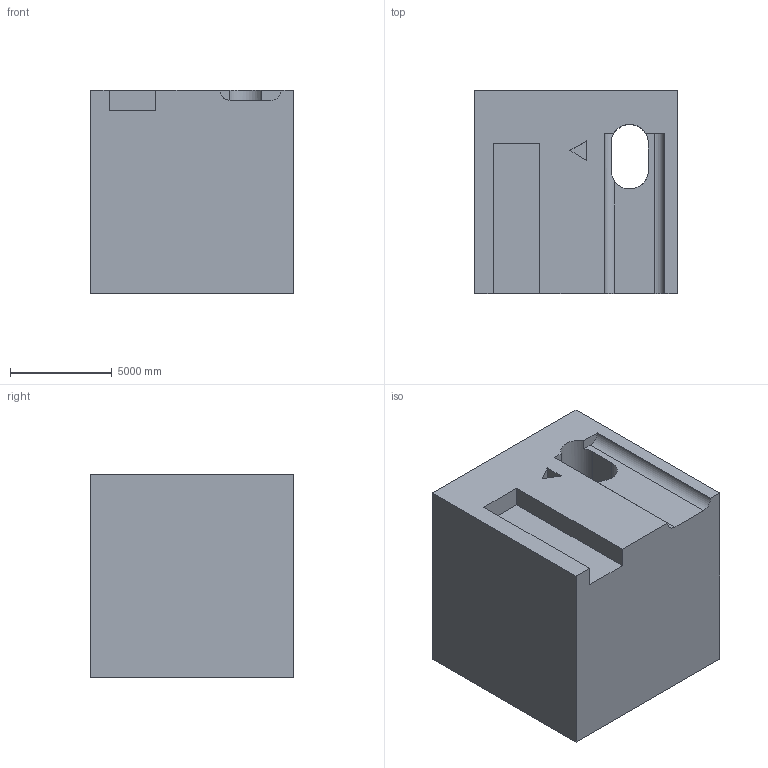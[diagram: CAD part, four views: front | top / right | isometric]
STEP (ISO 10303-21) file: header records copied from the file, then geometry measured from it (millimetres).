
FILE_DESCRIPTION (( 'STEP AP203' ), '1' );
FILE_NAME ('59.STEP', '2022-08-30T14:15:39', ( 'user' ), ( '' ), 'SwSTEP 2.0', 'SolidWorks 2021', '' );
FILE_SCHEMA (( 'CONFIG_CONTROL_DESIGN' ));
Length unit declared in the file: centimetre
Products named in the file (1): 59
Bounding box: 10000 x 10000 x 10000 mm (x, y, z)
Volume: 869335114245.1 mm3; surface area: 757962856.8 mm2
Topology: 1 solids, 1 shells, 34 faces, 99 edges, 66 vertices
Faces by surface type: plane 30, cylinder 4
Entity records: 1241 total; most frequent: CARTESIAN_POINT 244, ORIENTED_EDGE 198, DIRECTION 180, EDGE_CURVE 99, LINE 84, VECTOR 84, VERTEX_POINT 66, AXIS2_PLACEMENT_3D 48
